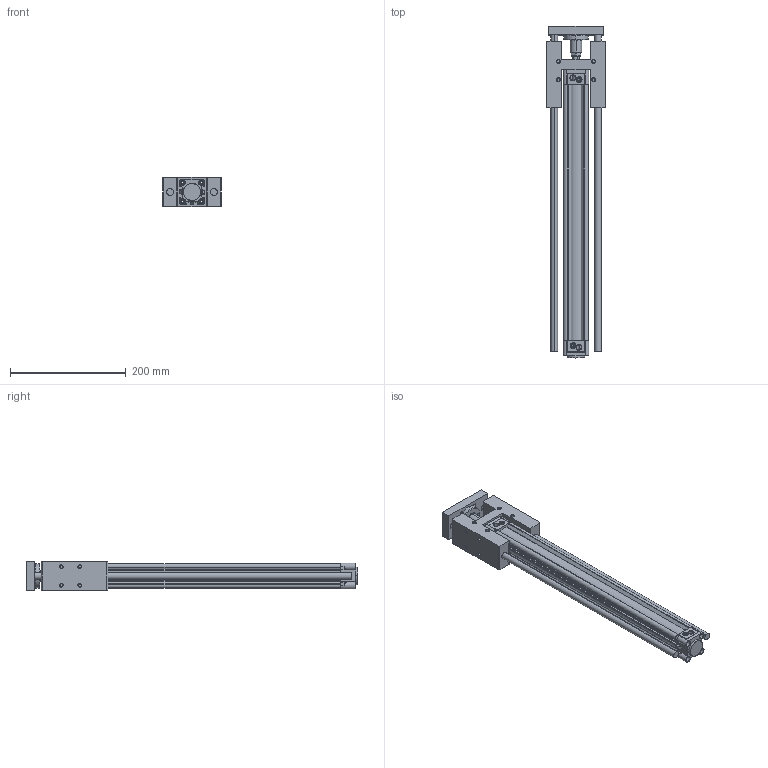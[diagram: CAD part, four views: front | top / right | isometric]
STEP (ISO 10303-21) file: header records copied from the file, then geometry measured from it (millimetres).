
FILE_DESCRIPTION (( 'STEP AP203' ), '1' );
FILE_NAME ('KDNT32X400H-YATAK.STEP', '2016-05-17T10:33:59', ( 'user' ), ( '' ), 'SwSTEP 2.0', 'SolidWorks 2013', '' );
FILE_SCHEMA (( 'CONFIG_CONTROL_DESIGN' ));
Length unit declared in the file: millimetre
Products named in the file (11): DNC-H-YATAK 32; DNC-H-M尳 32X400; ARKA KAPAK; DNC-H-YATAK TABLA 32; 泩 KAPAK; DNC-H-YATAK MÝL YATAÐI 32; KDNT 32x400 BORU; SOMUN; ORTA P¦STON; KDNT Piston Mili 32X400; KDNT32X400H-YATAK
Assembly tree (11 placements, depth 2):
  KDNT32X400H-YATAK
    DNC-H-YATAK 32
    DNC-H-M尳 32X400  x2
    DNC-H-YATAK TABLA 32
    DNC-H-YATAK MÝL YATAÐI 32
    SOMUN
    ARKA KAPAK
    泩 KAPAK
    KDNT 32x400 BORU
    ORTA P¦STON
    KDNT Piston Mili 32X400
Bounding box: 101 x 573.4 x 50.5 mm (x, y, z)
Volume: 882716 mm3; surface area: 350535.8 mm2
Topology: 13 solids, 14 shells, 936 faces, 2276 edges, 1432 vertices
Faces by surface type: cylinder 377, plane 250, cone 179, bspline 120, torus 10
Entity records: 41297 total; most frequent: CARTESIAN_POINT 18983, ORIENTED_EDGE 4508, DIRECTION 4240, EDGE_CURVE 2254, AXIS2_PLACEMENT_3D 1678, VERTEX_POINT 1428, EDGE_LOOP 1094, FACE_OUTER_BOUND 932
